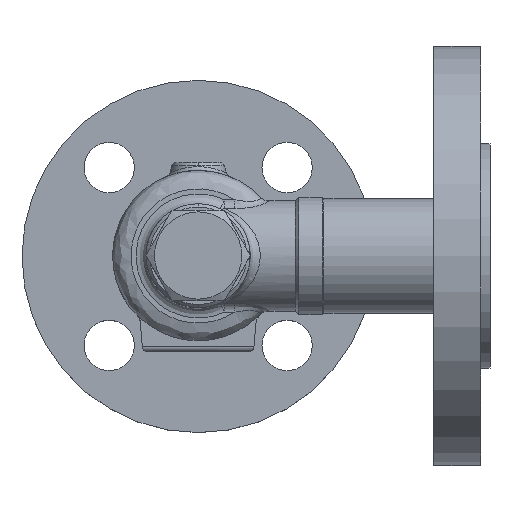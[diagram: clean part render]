
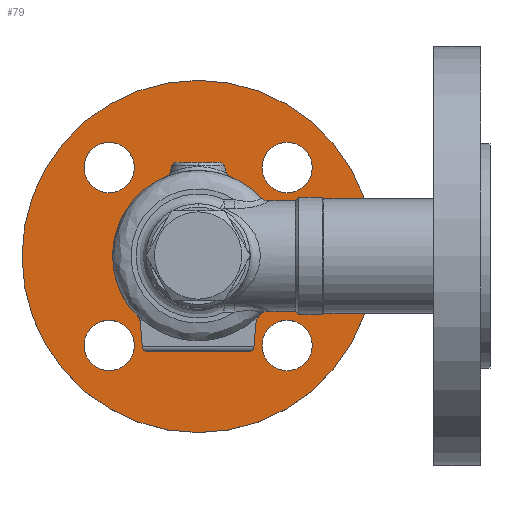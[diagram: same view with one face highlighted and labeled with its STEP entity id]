
A CAD part, top view. The second image highlights one B-rep face of the part: STEP entity #79.
In plain terms, the highlighted planar face has unit normal (0, 0, 1) as drawn and (0, 1, 0) by its records, which use the part's own axes.
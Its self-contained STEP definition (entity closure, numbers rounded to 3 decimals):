
#79=ADVANCED_FACE('',(#262,#263,#264,#265,#266,#267),#261,.T.);
#261=PLANE('',#1668);
#262=FACE_OUTER_BOUND('',#1669,.T.);
#263=FACE_BOUND('',#1670,.T.);
#264=FACE_BOUND('',#1671,.T.);
#265=FACE_BOUND('',#1672,.T.);
#266=FACE_BOUND('',#1673,.T.);
#267=FACE_BOUND('',#1674,.T.);
#1665=CARTESIAN_POINT('',(-100.933,-82.,-115.));
#1666=DIRECTION('',(0.,1.,0.));
#1667=DIRECTION('',(0.,0.,1.));
#1668=AXIS2_PLACEMENT_3D('',#1665,#1666,#1667);
#1669=EDGE_LOOP('',(#3545,#3546));
#1670=EDGE_LOOP('',(#3547,#3548));
#1671=EDGE_LOOP('',(#3549,#3550));
#1672=EDGE_LOOP('',(#3551,#3552));
#1673=EDGE_LOOP('',(#3553,#3554));
#1674=EDGE_LOOP('',(#3555,#3556));
#3545=ORIENTED_EDGE('',*,*,#4218,.T.);
#3546=ORIENTED_EDGE('',*,*,#4219,.T.);
#3547=ORIENTED_EDGE('',*,*,#4220,.F.);
#3548=ORIENTED_EDGE('',*,*,#4221,.F.);
#3549=ORIENTED_EDGE('',*,*,#4222,.F.);
#3550=ORIENTED_EDGE('',*,*,#4223,.F.);
#3551=ORIENTED_EDGE('',*,*,#4224,.F.);
#3552=ORIENTED_EDGE('',*,*,#4225,.F.);
#3553=ORIENTED_EDGE('',*,*,#4226,.F.);
#3554=ORIENTED_EDGE('',*,*,#4227,.F.);
#3555=ORIENTED_EDGE('',*,*,#4228,.F.);
#3556=ORIENTED_EDGE('',*,*,#4229,.F.);
#4218=EDGE_CURVE('',#4728,#4729,#4730,.T.);
#4219=EDGE_CURVE('',#4729,#4728,#4736,.T.);
#4220=EDGE_CURVE('',#4742,#4743,#4744,.T.);
#4221=EDGE_CURVE('',#4743,#4742,#4750,.T.);
#4222=EDGE_CURVE('',#4756,#4757,#4758,.T.);
#4223=EDGE_CURVE('',#4757,#4756,#4764,.T.);
#4224=EDGE_CURVE('',#4770,#4771,#4772,.T.);
#4225=EDGE_CURVE('',#4771,#4770,#4778,.T.);
#4226=EDGE_CURVE('',#4784,#4785,#4786,.T.);
#4227=EDGE_CURVE('',#4785,#4784,#4792,.T.);
#4228=EDGE_CURVE('',#4798,#4799,#4800,.T.);
#4229=EDGE_CURVE('',#4799,#4798,#4806,.T.);
#4728=VERTEX_POINT('',#6906);
#4729=VERTEX_POINT('',#6907);
#4730=CIRCLE('',#6911,52.5);
#4736=CIRCLE('',#6915,52.5);
#4742=VERTEX_POINT('',#6916);
#4743=VERTEX_POINT('',#6917);
#4744=CIRCLE('',#6921,7.5);
#4750=CIRCLE('',#6925,7.5);
#4756=VERTEX_POINT('',#6926);
#4757=VERTEX_POINT('',#6927);
#4758=CIRCLE('',#6931,7.5);
#4764=CIRCLE('',#6935,7.5);
#4770=VERTEX_POINT('',#6936);
#4771=VERTEX_POINT('',#6937);
#4772=CIRCLE('',#6941,7.5);
#4778=CIRCLE('',#6945,7.5);
#4784=VERTEX_POINT('',#6946);
#4785=VERTEX_POINT('',#6947);
#4786=CIRCLE('',#6951,7.5);
#4792=CIRCLE('',#6955,7.5);
#4798=VERTEX_POINT('',#6956);
#4799=VERTEX_POINT('',#6957);
#4800=CIRCLE('',#6961,13.6);
#4806=CIRCLE('',#6965,13.6);
#6906=CARTESIAN_POINT('',(0.,-82.,52.5));
#6907=CARTESIAN_POINT('',(0.,-82.,-52.5));
#6908=CARTESIAN_POINT('',(0.,-82.,0.));
#6909=DIRECTION('',(0.,1.,0.));
#6910=DIRECTION('',(0.,0.,1.));
#6911=AXIS2_PLACEMENT_3D('',#6908,#6909,#6910);
#6912=CARTESIAN_POINT('',(0.,-82.,0.));
#6913=DIRECTION('',(0.,1.,0.));
#6914=DIRECTION('',(0.,0.,1.));
#6915=AXIS2_PLACEMENT_3D('',#6912,#6913,#6914);
#6916=CARTESIAN_POINT('',(26.517,-82.,-34.017));
#6917=CARTESIAN_POINT('',(26.517,-82.,-19.017));
#6918=CARTESIAN_POINT('',(26.517,-82.,-26.517));
#6919=DIRECTION('',(0.,1.,0.));
#6920=DIRECTION('',(0.,0.,1.));
#6921=AXIS2_PLACEMENT_3D('',#6918,#6919,#6920);
#6922=CARTESIAN_POINT('',(26.517,-82.,-26.517));
#6923=DIRECTION('',(0.,1.,0.));
#6924=DIRECTION('',(0.,0.,1.));
#6925=AXIS2_PLACEMENT_3D('',#6922,#6923,#6924);
#6926=CARTESIAN_POINT('',(26.517,-82.,19.017));
#6927=CARTESIAN_POINT('',(26.517,-82.,34.017));
#6928=CARTESIAN_POINT('',(26.517,-82.,26.517));
#6929=DIRECTION('',(0.,1.,0.));
#6930=DIRECTION('',(0.,0.,1.));
#6931=AXIS2_PLACEMENT_3D('',#6928,#6929,#6930);
#6932=CARTESIAN_POINT('',(26.517,-82.,26.517));
#6933=DIRECTION('',(0.,1.,0.));
#6934=DIRECTION('',(0.,0.,1.));
#6935=AXIS2_PLACEMENT_3D('',#6932,#6933,#6934);
#6936=CARTESIAN_POINT('',(-26.517,-82.,19.017));
#6937=CARTESIAN_POINT('',(-26.517,-82.,34.017));
#6938=CARTESIAN_POINT('',(-26.517,-82.,26.517));
#6939=DIRECTION('',(0.,1.,0.));
#6940=DIRECTION('',(0.,0.,1.));
#6941=AXIS2_PLACEMENT_3D('',#6938,#6939,#6940);
#6942=CARTESIAN_POINT('',(-26.517,-82.,26.517));
#6943=DIRECTION('',(0.,1.,0.));
#6944=DIRECTION('',(0.,0.,1.));
#6945=AXIS2_PLACEMENT_3D('',#6942,#6943,#6944);
#6946=CARTESIAN_POINT('',(-26.517,-82.,-34.017));
#6947=CARTESIAN_POINT('',(-26.517,-82.,-19.017));
#6948=CARTESIAN_POINT('',(-26.517,-82.,-26.517));
#6949=DIRECTION('',(0.,1.,0.));
#6950=DIRECTION('',(0.,0.,1.));
#6951=AXIS2_PLACEMENT_3D('',#6948,#6949,#6950);
#6952=CARTESIAN_POINT('',(-26.517,-82.,-26.517));
#6953=DIRECTION('',(0.,1.,0.));
#6954=DIRECTION('',(0.,0.,1.));
#6955=AXIS2_PLACEMENT_3D('',#6952,#6953,#6954);
#6956=CARTESIAN_POINT('',(0.,-82.,-13.6));
#6957=CARTESIAN_POINT('',(0.,-82.,13.6));
#6958=CARTESIAN_POINT('',(0.,-82.,0.));
#6959=DIRECTION('',(0.,1.,0.));
#6960=DIRECTION('',(0.,0.,1.));
#6961=AXIS2_PLACEMENT_3D('',#6958,#6959,#6960);
#6962=CARTESIAN_POINT('',(0.,-82.,0.));
#6963=DIRECTION('',(0.,1.,0.));
#6964=DIRECTION('',(0.,0.,1.));
#6965=AXIS2_PLACEMENT_3D('',#6962,#6963,#6964);
